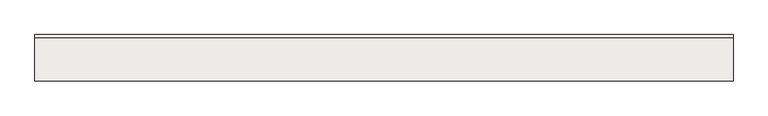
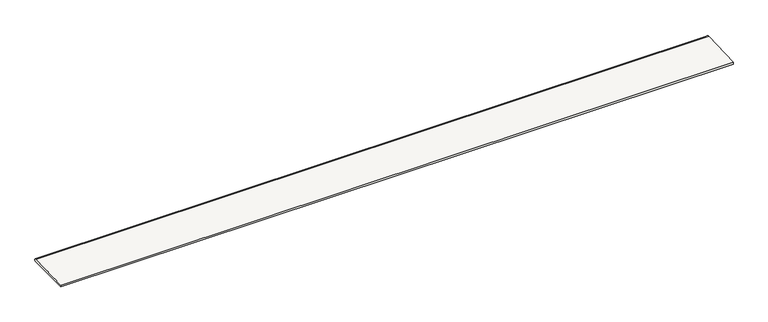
"""IFC4 building model written with IfcOpenShell, lengths in millimetres: slab geometry, ROSA GRES_S62 : Pieza S62_Serena_Ocra_Anti-Slip."""

from ifc_helpers import new_model, si_unit, point, frame, frame_2d, origin, place, context, project, spatial, polyline, circle_curve, trimmed, segment, composite_curve, outline, extrude, source, transform, mapped, element, save


def slab_63c91a64(model_context):
    return source(origin(), model_context, "Body", "SweptSolid", [
        extrude(outline(composite_curve([segment(trimmed(circle_curve(frame_2d((1.0275626, -2.7080096)), 16.7800504), [point((0.261516, 14.0545458))], [point((15.0, -12.0))], False, "CARTESIAN"), True, "CONTINUOUS"), segment(polyline([(15.0, -12.0), (-291.6389713, -12.0), (-291.6389713, 0.0), (0.261516, 14.0545458)]), True, "CONTINUOUS")], self_intersect=False)), frame((0.0, 0.0, 0.0), z_axis=(1.0, 0.0, 0.0), x_axis=(0.0, 1.0, 0.0)), (0.0, 0.0, 1.0), 4661.8067987),
    ])


if __name__ == "__main__":
    model = new_model("IFC4")
    model_context = context("Model", 3, world=origin())
    ifc_project = project(units=[si_unit("LENGTHUNIT", "METRE", prefix="MILLI")], contexts=[model_context])
    site = spatial("IfcSite", under=ifc_project)
    building = spatial("IfcBuilding", under=site)
    placement = place(None, origin())
    slab_shape = slab_63c91a64(model_context)
    element("IfcSlab", 1, ObjectType="ROSA GRES_S62 : Pieza S62_Serena_Ocra_Anti-Slip", at=placement, inside=building, context=model_context, shape_type="MappedRepresentation", body=[
        mapped(slab_shape, transform((0.0, 0.0, 0.0), x_axis=(1.0, 0.0, 0.0), y_axis=(0.0, 1.0, 0.0), z_axis=(0.0, 0.0, 1.0))),
    ])
    save(model, "model.ifc")
